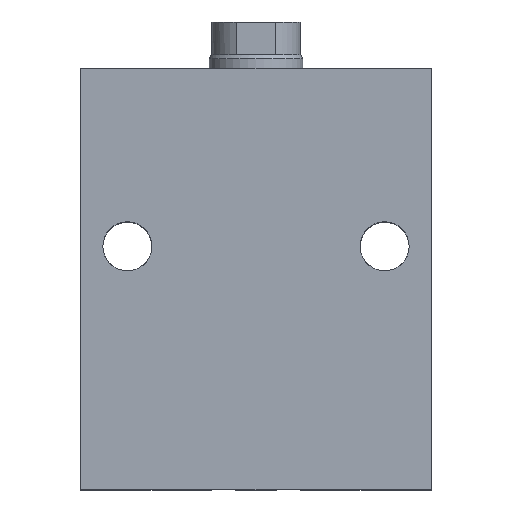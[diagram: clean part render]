
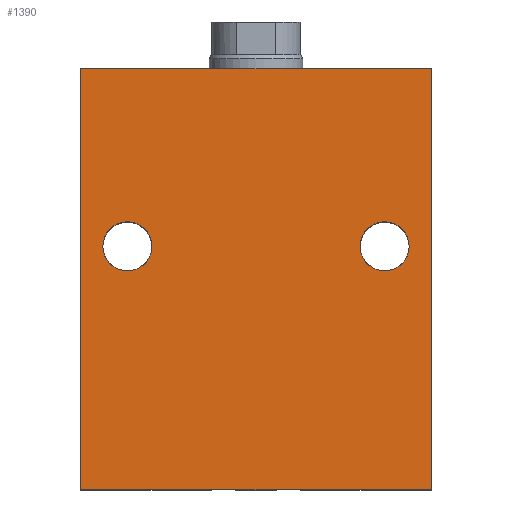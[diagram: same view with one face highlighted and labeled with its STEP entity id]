
A CAD part, top view. The second image highlights one B-rep face of the part: STEP entity #1390.
In plain terms, the highlighted planar face has unit normal (0, 0, 1).
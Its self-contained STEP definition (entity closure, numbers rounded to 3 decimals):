
#19 = CARTESIAN_POINT ( 'NONE',  ( 27.5, 52., 27.5 ) ) ;
#22 = EDGE_CURVE ( 'NONE', #238, #2162, #2247, .T. ) ;
#103 = AXIS2_PLACEMENT_3D ( 'NONE', #19, #2308, #351 ) ;
#182 = VERTEX_POINT ( 'NONE', #3577 ) ;
#200 = VERTEX_POINT ( 'NONE', #992 ) ;
#215 = EDGE_LOOP ( 'NONE', ( #3799, #1423, #4177, #3888 ) ) ;
#216 = CIRCLE ( 'NONE', #3356, 5.25 ) ;
#238 = VERTEX_POINT ( 'NONE', #3940 ) ;
#296 = DIRECTION ( 'NONE',  ( 1., 0., 0. ) ) ;
#342 = AXIS2_PLACEMENT_3D ( 'NONE', #3233, #959, #2897 ) ;
#351 = DIRECTION ( 'NONE',  ( 1., 0., 0. ) ) ;
#409 = PLANE ( 'NONE',  #3007 ) ;
#499 = EDGE_LOOP ( 'NONE', ( #3598, #1983 ) ) ;
#509 = EDGE_CURVE ( 'NONE', #182, #238, #2061, .T. ) ;
#547 = EDGE_CURVE ( 'NONE', #182, #2432, #3497, .T. ) ;
#729 = CARTESIAN_POINT ( 'NONE',  ( 37.5, 90., 27.5 ) ) ;
#826 = CARTESIAN_POINT ( 'NONE',  ( -37.5, 65., 27.5 ) ) ;
#830 = EDGE_CURVE ( 'NONE', #200, #2400, #850, .T. ) ;
#832 = EDGE_LOOP ( 'NONE', ( #1138, #1851 ) ) ;
#850 = CIRCLE ( 'NONE', #103, 5.25 ) ;
#863 = DIRECTION ( 'NONE',  ( 1., 0., 0. ) ) ;
#892 = FACE_BOUND ( 'NONE', #832, .T. ) ;
#959 = DIRECTION ( 'NONE',  ( 0., 0., 1. ) ) ;
#992 = CARTESIAN_POINT ( 'NONE',  ( 32.75, 52., 27.5 ) ) ;
#1138 = ORIENTED_EDGE ( 'NONE', *, *, #830, .F. ) ;
#1142 = AXIS2_PLACEMENT_3D ( 'NONE', #1584, #1917, #296 ) ;
#1159 = VERTEX_POINT ( 'NONE', #1866 ) ;
#1193 = DIRECTION ( 'NONE',  ( 0., 0., 1. ) ) ;
#1326 = EDGE_CURVE ( 'NONE', #2432, #2162, #3488, .T. ) ;
#1390 = ADVANCED_FACE ( 'NONE', ( #892, #1642, #3399 ), #409, .F. ) ;
#1394 = VECTOR ( 'NONE', #2836, 1000. ) ;
#1423 = ORIENTED_EDGE ( 'NONE', *, *, #1326, .F. ) ;
#1525 = CARTESIAN_POINT ( 'NONE',  ( -22.25, 52., 27.5 ) ) ;
#1584 = CARTESIAN_POINT ( 'NONE',  ( -27.5, 52., 27.5 ) ) ;
#1642 = FACE_BOUND ( 'NONE', #499, .T. ) ;
#1700 = DIRECTION ( 'NONE',  ( -1., 0., 0. ) ) ;
#1718 = CARTESIAN_POINT ( 'NONE',  ( -37.5, 65., 27.5 ) ) ;
#1754 = VECTOR ( 'NONE', #2407, 1000. ) ;
#1851 = ORIENTED_EDGE ( 'NONE', *, *, #2142, .F. ) ;
#1866 = CARTESIAN_POINT ( 'NONE',  ( -32.75, 52., 27.5 ) ) ;
#1917 = DIRECTION ( 'NONE',  ( 0., 0., 1. ) ) ;
#1954 = VECTOR ( 'NONE', #3082, 1000. ) ;
#1983 = ORIENTED_EDGE ( 'NONE', *, *, #2504, .F. ) ;
#2061 = LINE ( 'NONE', #826, #1954 ) ;
#2142 = EDGE_CURVE ( 'NONE', #2400, #200, #3426, .T. ) ;
#2162 = VERTEX_POINT ( 'NONE', #3551 ) ;
#2247 = LINE ( 'NONE', #4141, #1394 ) ;
#2308 = DIRECTION ( 'NONE',  ( 0., 0., 1. ) ) ;
#2400 = VERTEX_POINT ( 'NONE', #2986 ) ;
#2407 = DIRECTION ( 'NONE',  ( 0., -1., 0. ) ) ;
#2412 = CIRCLE ( 'NONE', #1142, 5.25 ) ;
#2432 = VERTEX_POINT ( 'NONE', #729 ) ;
#2504 = EDGE_CURVE ( 'NONE', #1159, #4080, #2412, .T. ) ;
#2800 = CARTESIAN_POINT ( 'NONE',  ( -37.5, 90., 27.5 ) ) ;
#2836 = DIRECTION ( 'NONE',  ( 1., 0., 0. ) ) ;
#2897 = DIRECTION ( 'NONE',  ( 1., 0., 0. ) ) ;
#2986 = CARTESIAN_POINT ( 'NONE',  ( 22.25, 52., 27.5 ) ) ;
#3007 = AXIS2_PLACEMENT_3D ( 'NONE', #1718, #3991, #1700 ) ;
#3082 = DIRECTION ( 'NONE',  ( 0., -1., 0. ) ) ;
#3150 = CARTESIAN_POINT ( 'NONE',  ( -27.5, 52., 27.5 ) ) ;
#3233 = CARTESIAN_POINT ( 'NONE',  ( 27.5, 52., 27.5 ) ) ;
#3356 = AXIS2_PLACEMENT_3D ( 'NONE', #3150, #1193, #3477 ) ;
#3399 = FACE_OUTER_BOUND ( 'NONE', #215, .T. ) ;
#3406 = VECTOR ( 'NONE', #863, 1000. ) ;
#3426 = CIRCLE ( 'NONE', #342, 5.25 ) ;
#3477 = DIRECTION ( 'NONE',  ( 1., 0., 0. ) ) ;
#3488 = LINE ( 'NONE', #4026, #1754 ) ;
#3497 = LINE ( 'NONE', #2800, #3406 ) ;
#3551 = CARTESIAN_POINT ( 'NONE',  ( 37.5, 0., 27.5 ) ) ;
#3577 = CARTESIAN_POINT ( 'NONE',  ( -37.5, 90., 27.5 ) ) ;
#3598 = ORIENTED_EDGE ( 'NONE', *, *, #4024, .F. ) ;
#3799 = ORIENTED_EDGE ( 'NONE', *, *, #22, .T. ) ;
#3888 = ORIENTED_EDGE ( 'NONE', *, *, #509, .T. ) ;
#3940 = CARTESIAN_POINT ( 'NONE',  ( -37.5, 0., 27.5 ) ) ;
#3991 = DIRECTION ( 'NONE',  ( 0., 0., -1. ) ) ;
#4024 = EDGE_CURVE ( 'NONE', #4080, #1159, #216, .T. ) ;
#4026 = CARTESIAN_POINT ( 'NONE',  ( 37.5, 65., 27.5 ) ) ;
#4080 = VERTEX_POINT ( 'NONE', #1525 ) ;
#4141 = CARTESIAN_POINT ( 'NONE',  ( -37.5, 0., 27.5 ) ) ;
#4177 = ORIENTED_EDGE ( 'NONE', *, *, #547, .F. ) ;
